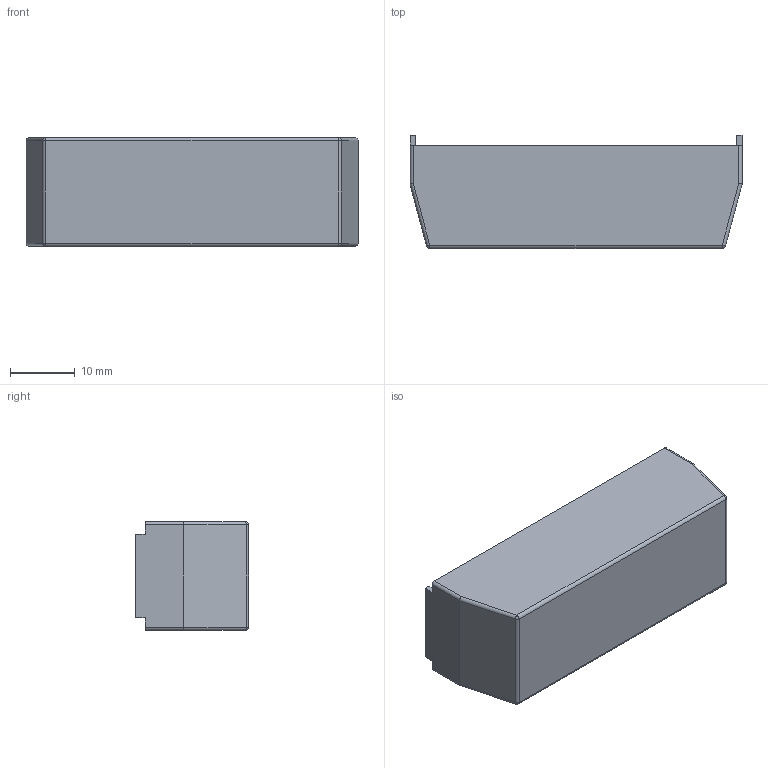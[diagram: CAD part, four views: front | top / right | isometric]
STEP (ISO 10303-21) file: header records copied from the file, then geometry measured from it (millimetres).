
FILE_DESCRIPTION((''),'2;1');
FILE_NAME('M:\MAP\BIBL\Cliente\M3\M33.stp','2007-06-29T15:52:43',('esergio'),(''),'Autodesk Inventor 10','Autodesk Inventor 10','');
FILE_SCHEMA(('AUTOMOTIVE_DESIGN { 1 2 10303 214 0 1 1 1 }'));
Length unit declared in the file: millimetre
Products named in the file (1): M33
Bounding box: 51.4 x 17.5 x 16.8 mm (x, y, z)
Volume: 3986.1 mm3; surface area: 5509.2 mm2
Topology: 1 solids, 1 shells, 55 faces, 132 edges, 72 vertices
Faces by surface type: cylinder 24, plane 19, bspline 8, sphere 4
Entity records: 1613 total; most frequent: CARTESIAN_POINT 368, DIRECTION 260, ORIENTED_EDGE 248, EDGE_CURVE 124, AXIS2_PLACEMENT_3D 88, VECTOR 84, LINE 84, VERTEX_POINT 72
